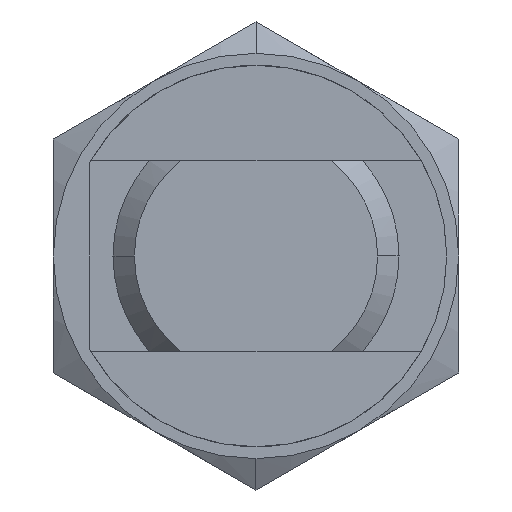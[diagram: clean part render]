
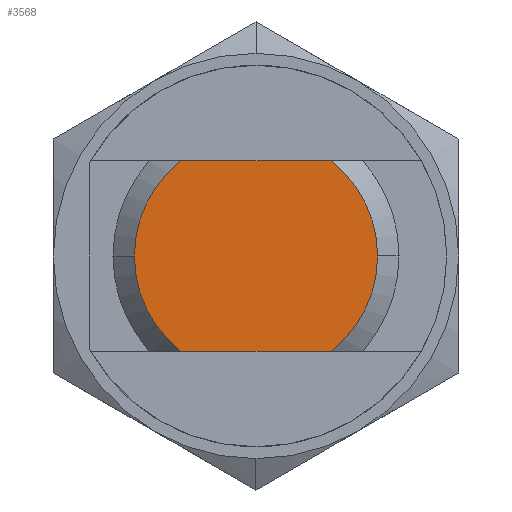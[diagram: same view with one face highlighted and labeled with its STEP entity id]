
A CAD part, front view. The second image highlights one B-rep face of the part: STEP entity #3568.
In plain terms, the highlighted planar face has unit normal (0, -1, 0).
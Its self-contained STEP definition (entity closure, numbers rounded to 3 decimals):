
#3335=CARTESIAN_POINT('',(-5.1,0.0,0.));
#3336=VERTEX_POINT('',#3335);
#3343=CARTESIAN_POINT('',(-3.164,0.0,4.0));
#3344=VERTEX_POINT('',#3343);
#3345=CARTESIAN_POINT('',(0.0,0.0,0.0));
#3346=DIRECTION('',(0.0,1.0,0.0));
#3347=DIRECTION('',(-1.0,0.0,0.0));
#3348=AXIS2_PLACEMENT_3D('',#3345,#3346,#3347);
#3349=CIRCLE('',#3348,5.1);
#3350=EDGE_CURVE('',#3336,#3344,#3349,.T.);
#3374=CARTESIAN_POINT('',(5.1,0.0,0.));
#3375=VERTEX_POINT('',#3374);
#3382=CARTESIAN_POINT('',(3.164,0.0,-4.0));
#3383=VERTEX_POINT('',#3382);
#3384=CARTESIAN_POINT('',(0.0,0.0,0.0));
#3385=DIRECTION('',(0.0,1.0,0.0));
#3386=DIRECTION('',(1.0,0.0,0.0));
#3387=AXIS2_PLACEMENT_3D('',#3384,#3385,#3386);
#3388=CIRCLE('',#3387,5.1);
#3389=EDGE_CURVE('',#3375,#3383,#3388,.T.);
#3423=CARTESIAN_POINT('',(3.164,0.0,4.0));
#3424=VERTEX_POINT('',#3423);
#3438=CARTESIAN_POINT('',(0.0,0.0,0.0));
#3439=DIRECTION('',(0.0,1.0,0.0));
#3440=DIRECTION('',(1.0,0.0,0.0));
#3441=AXIS2_PLACEMENT_3D('',#3438,#3439,#3440);
#3442=CIRCLE('',#3441,5.1);
#3443=EDGE_CURVE('',#3424,#3375,#3442,.T.);
#3454=CARTESIAN_POINT('',(-3.164,0.0,-4.0));
#3455=VERTEX_POINT('',#3454);
#3456=CARTESIAN_POINT('',(-3.164,0.0,-4.0));
#3457=DIRECTION('',(1.0,0.0,0.0));
#3458=VECTOR('',#3457,6.328);
#3459=LINE('',#3456,#3458);
#3460=EDGE_CURVE('',#3455,#3383,#3459,.T.);
#3544=CARTESIAN_POINT('',(-3.,0.0,0.0));
#3545=DIRECTION('',(0.0,-1.0,0.0));
#3546=DIRECTION('',(0.0,0.0,-1.0));
#3547=AXIS2_PLACEMENT_3D('',#3544,#3545,#3546);
#3548=PLANE('',#3547);
#3549=ORIENTED_EDGE('',*,*,#3443,.F.);
#3550=CARTESIAN_POINT('',(3.164,0.0,4.0));
#3551=DIRECTION('',(-1.0,0.0,0.0));
#3552=VECTOR('',#3551,6.328);
#3553=LINE('',#3550,#3552);
#3554=EDGE_CURVE('',#3424,#3344,#3553,.T.);
#3555=ORIENTED_EDGE('',*,*,#3554,.T.);
#3556=ORIENTED_EDGE('',*,*,#3350,.F.);
#3557=CARTESIAN_POINT('',(0.0,0.0,0.0));
#3558=DIRECTION('',(0.0,1.0,0.0));
#3559=DIRECTION('',(-1.0,0.0,0.0));
#3560=AXIS2_PLACEMENT_3D('',#3557,#3558,#3559);
#3561=CIRCLE('',#3560,5.1);
#3562=EDGE_CURVE('',#3455,#3336,#3561,.T.);
#3563=ORIENTED_EDGE('',*,*,#3562,.F.);
#3564=ORIENTED_EDGE('',*,*,#3460,.T.);
#3565=ORIENTED_EDGE('',*,*,#3389,.F.);
#3566=EDGE_LOOP('',(#3549,#3555,#3556,#3563,#3564,#3565));
#3567=FACE_OUTER_BOUND('',#3566,.T.);
#3568=ADVANCED_FACE('',(#3567),#3548,.T.);
